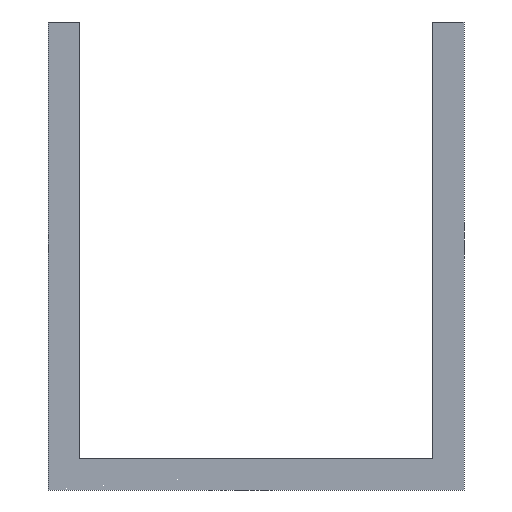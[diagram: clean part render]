
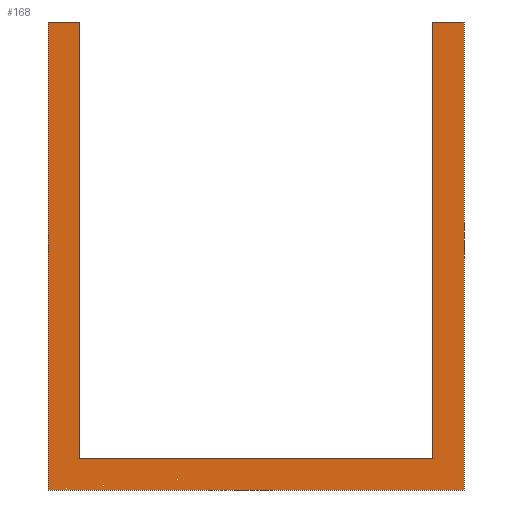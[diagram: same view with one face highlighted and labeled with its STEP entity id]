
A CAD part, front view. The second image highlights one B-rep face of the part: STEP entity #168.
In plain terms, the highlighted planar face has unit normal (0, -1, 0).
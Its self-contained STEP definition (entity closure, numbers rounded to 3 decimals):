
#21 = EDGE_CURVE('',#22,#24,#26,.T.);
#22 = VERTEX_POINT('',#23);
#23 = CARTESIAN_POINT('',(0.,-7.5,0.));
#24 = VERTEX_POINT('',#25);
#25 = CARTESIAN_POINT('',(0.,-7.5,90.));
#26 = SURFACE_CURVE('',#27,(#31,#43),.PCURVE_S1.);
#27 = LINE('',#28,#29);
#28 = CARTESIAN_POINT('',(0.,-7.5,0.));
#29 = VECTOR('',#30,1.);
#30 = DIRECTION('',(0.,0.,1.));
#31 = PCURVE('',#32,#37);
#32 = PLANE('',#33);
#33 = AXIS2_PLACEMENT_3D('',#34,#35,#36);
#34 = CARTESIAN_POINT('',(0.,-7.5,0.));
#35 = DIRECTION('',(1.,0.,0.));
#36 = DIRECTION('',(0.,0.,1.));
#37 = DEFINITIONAL_REPRESENTATION('',(#38),#42);
#38 = LINE('',#39,#40);
#39 = CARTESIAN_POINT('',(0.,0.));
#40 = VECTOR('',#41,1.);
#41 = DIRECTION('',(1.,0.));
#42 = ( GEOMETRIC_REPRESENTATION_CONTEXT(2) 
PARAMETRIC_REPRESENTATION_CONTEXT() REPRESENTATION_CONTEXT('2D SPACE',''
  ) );
#43 = PCURVE('',#44,#49);
#44 = PLANE('',#45);
#45 = AXIS2_PLACEMENT_3D('',#46,#47,#48);
#46 = CARTESIAN_POINT('',(0.,-7.5,0.));
#47 = DIRECTION('',(0.,1.,0.));
#48 = DIRECTION('',(0.,0.,1.));
#49 = DEFINITIONAL_REPRESENTATION('',(#50),#54);
#50 = LINE('',#51,#52);
#51 = CARTESIAN_POINT('',(0.,0.));
#52 = VECTOR('',#53,1.);
#53 = DIRECTION('',(1.,0.));
#54 = ( GEOMETRIC_REPRESENTATION_CONTEXT(2) 
PARAMETRIC_REPRESENTATION_CONTEXT() REPRESENTATION_CONTEXT('2D SPACE',''
  ) );
#72 = PLANE('',#73);
#73 = AXIS2_PLACEMENT_3D('',#74,#75,#76);
#74 = CARTESIAN_POINT('',(0.,-7.5,0.));
#75 = DIRECTION('',(0.,0.,1.));
#76 = DIRECTION('',(1.,0.,0.));
#126 = PLANE('',#127);
#127 = AXIS2_PLACEMENT_3D('',#128,#129,#130);
#128 = CARTESIAN_POINT('',(0.,-7.5,90.));
#129 = DIRECTION('',(0.,0.,1.));
#130 = DIRECTION('',(1.,0.,0.));
#168 = ADVANCED_FACE('',(#169),#44,.F.);
#169 = FACE_BOUND('',#170,.F.);
#170 = EDGE_LOOP('',(#171,#194,#195,#218,#246,#274,#302,#330));
#171 = ORIENTED_EDGE('',*,*,#172,.F.);
#172 = EDGE_CURVE('',#22,#173,#175,.T.);
#173 = VERTEX_POINT('',#174);
#174 = CARTESIAN_POINT('',(80.,-7.5,0.));
#175 = SURFACE_CURVE('',#176,(#180,#187),.PCURVE_S1.);
#176 = LINE('',#177,#178);
#177 = CARTESIAN_POINT('',(0.,-7.5,0.));
#178 = VECTOR('',#179,1.);
#179 = DIRECTION('',(1.,0.,0.));
#180 = PCURVE('',#44,#181);
#181 = DEFINITIONAL_REPRESENTATION('',(#182),#186);
#182 = LINE('',#183,#184);
#183 = CARTESIAN_POINT('',(0.,0.));
#184 = VECTOR('',#185,1.);
#185 = DIRECTION('',(0.,1.));
#186 = ( GEOMETRIC_REPRESENTATION_CONTEXT(2) 
PARAMETRIC_REPRESENTATION_CONTEXT() REPRESENTATION_CONTEXT('2D SPACE',''
  ) );
#187 = PCURVE('',#72,#188);
#188 = DEFINITIONAL_REPRESENTATION('',(#189),#193);
#189 = LINE('',#190,#191);
#190 = CARTESIAN_POINT('',(0.,0.));
#191 = VECTOR('',#192,1.);
#192 = DIRECTION('',(1.,0.));
#193 = ( GEOMETRIC_REPRESENTATION_CONTEXT(2) 
PARAMETRIC_REPRESENTATION_CONTEXT() REPRESENTATION_CONTEXT('2D SPACE',''
  ) );
#194 = ORIENTED_EDGE('',*,*,#21,.T.);
#195 = ORIENTED_EDGE('',*,*,#196,.T.);
#196 = EDGE_CURVE('',#24,#197,#199,.T.);
#197 = VERTEX_POINT('',#198);
#198 = CARTESIAN_POINT('',(6.,-7.5,90.));
#199 = SURFACE_CURVE('',#200,(#204,#211),.PCURVE_S1.);
#200 = LINE('',#201,#202);
#201 = CARTESIAN_POINT('',(0.,-7.5,90.));
#202 = VECTOR('',#203,1.);
#203 = DIRECTION('',(1.,0.,0.));
#204 = PCURVE('',#44,#205);
#205 = DEFINITIONAL_REPRESENTATION('',(#206),#210);
#206 = LINE('',#207,#208);
#207 = CARTESIAN_POINT('',(90.,0.));
#208 = VECTOR('',#209,1.);
#209 = DIRECTION('',(0.,1.));
#210 = ( GEOMETRIC_REPRESENTATION_CONTEXT(2) 
PARAMETRIC_REPRESENTATION_CONTEXT() REPRESENTATION_CONTEXT('2D SPACE',''
  ) );
#211 = PCURVE('',#126,#212);
#212 = DEFINITIONAL_REPRESENTATION('',(#213),#217);
#213 = LINE('',#214,#215);
#214 = CARTESIAN_POINT('',(0.,0.));
#215 = VECTOR('',#216,1.);
#216 = DIRECTION('',(1.,0.));
#217 = ( GEOMETRIC_REPRESENTATION_CONTEXT(2) 
PARAMETRIC_REPRESENTATION_CONTEXT() REPRESENTATION_CONTEXT('2D SPACE',''
  ) );
#218 = ORIENTED_EDGE('',*,*,#219,.F.);
#219 = EDGE_CURVE('',#220,#197,#222,.T.);
#220 = VERTEX_POINT('',#221);
#221 = CARTESIAN_POINT('',(6.,-7.5,6.));
#222 = SURFACE_CURVE('',#223,(#227,#234),.PCURVE_S1.);
#223 = LINE('',#224,#225);
#224 = CARTESIAN_POINT('',(6.,-7.5,0.));
#225 = VECTOR('',#226,1.);
#226 = DIRECTION('',(0.,0.,1.));
#227 = PCURVE('',#44,#228);
#228 = DEFINITIONAL_REPRESENTATION('',(#229),#233);
#229 = LINE('',#230,#231);
#230 = CARTESIAN_POINT('',(0.,6.));
#231 = VECTOR('',#232,1.);
#232 = DIRECTION('',(1.,0.));
#233 = ( GEOMETRIC_REPRESENTATION_CONTEXT(2) 
PARAMETRIC_REPRESENTATION_CONTEXT() REPRESENTATION_CONTEXT('2D SPACE',''
  ) );
#234 = PCURVE('',#235,#240);
#235 = PLANE('',#236);
#236 = AXIS2_PLACEMENT_3D('',#237,#238,#239);
#237 = CARTESIAN_POINT('',(6.,-7.5,0.));
#238 = DIRECTION('',(1.,0.,0.));
#239 = DIRECTION('',(0.,0.,1.));
#240 = DEFINITIONAL_REPRESENTATION('',(#241),#245);
#241 = LINE('',#242,#243);
#242 = CARTESIAN_POINT('',(0.,0.));
#243 = VECTOR('',#244,1.);
#244 = DIRECTION('',(1.,0.));
#245 = ( GEOMETRIC_REPRESENTATION_CONTEXT(2) 
PARAMETRIC_REPRESENTATION_CONTEXT() REPRESENTATION_CONTEXT('2D SPACE',''
  ) );
#246 = ORIENTED_EDGE('',*,*,#247,.T.);
#247 = EDGE_CURVE('',#220,#248,#250,.T.);
#248 = VERTEX_POINT('',#249);
#249 = CARTESIAN_POINT('',(74.,-7.5,6.));
#250 = SURFACE_CURVE('',#251,(#255,#262),.PCURVE_S1.);
#251 = LINE('',#252,#253);
#252 = CARTESIAN_POINT('',(0.,-7.5,6.));
#253 = VECTOR('',#254,1.);
#254 = DIRECTION('',(1.,0.,0.));
#255 = PCURVE('',#44,#256);
#256 = DEFINITIONAL_REPRESENTATION('',(#257),#261);
#257 = LINE('',#258,#259);
#258 = CARTESIAN_POINT('',(6.,0.));
#259 = VECTOR('',#260,1.);
#260 = DIRECTION('',(0.,1.));
#261 = ( GEOMETRIC_REPRESENTATION_CONTEXT(2) 
PARAMETRIC_REPRESENTATION_CONTEXT() REPRESENTATION_CONTEXT('2D SPACE',''
  ) );
#262 = PCURVE('',#263,#268);
#263 = PLANE('',#264);
#264 = AXIS2_PLACEMENT_3D('',#265,#266,#267);
#265 = CARTESIAN_POINT('',(0.,-7.5,6.));
#266 = DIRECTION('',(0.,0.,1.));
#267 = DIRECTION('',(1.,0.,0.));
#268 = DEFINITIONAL_REPRESENTATION('',(#269),#273);
#269 = LINE('',#270,#271);
#270 = CARTESIAN_POINT('',(0.,0.));
#271 = VECTOR('',#272,1.);
#272 = DIRECTION('',(1.,0.));
#273 = ( GEOMETRIC_REPRESENTATION_CONTEXT(2) 
PARAMETRIC_REPRESENTATION_CONTEXT() REPRESENTATION_CONTEXT('2D SPACE',''
  ) );
#274 = ORIENTED_EDGE('',*,*,#275,.T.);
#275 = EDGE_CURVE('',#248,#276,#278,.T.);
#276 = VERTEX_POINT('',#277);
#277 = CARTESIAN_POINT('',(74.,-7.5,90.));
#278 = SURFACE_CURVE('',#279,(#283,#290),.PCURVE_S1.);
#279 = LINE('',#280,#281);
#280 = CARTESIAN_POINT('',(74.,-7.5,0.));
#281 = VECTOR('',#282,1.);
#282 = DIRECTION('',(0.,0.,1.));
#283 = PCURVE('',#44,#284);
#284 = DEFINITIONAL_REPRESENTATION('',(#285),#289);
#285 = LINE('',#286,#287);
#286 = CARTESIAN_POINT('',(0.,74.));
#287 = VECTOR('',#288,1.);
#288 = DIRECTION('',(1.,0.));
#289 = ( GEOMETRIC_REPRESENTATION_CONTEXT(2) 
PARAMETRIC_REPRESENTATION_CONTEXT() REPRESENTATION_CONTEXT('2D SPACE',''
  ) );
#290 = PCURVE('',#291,#296);
#291 = PLANE('',#292);
#292 = AXIS2_PLACEMENT_3D('',#293,#294,#295);
#293 = CARTESIAN_POINT('',(74.,-7.5,0.));
#294 = DIRECTION('',(1.,0.,0.));
#295 = DIRECTION('',(0.,0.,1.));
#296 = DEFINITIONAL_REPRESENTATION('',(#297),#301);
#297 = LINE('',#298,#299);
#298 = CARTESIAN_POINT('',(0.,0.));
#299 = VECTOR('',#300,1.);
#300 = DIRECTION('',(1.,0.));
#301 = ( GEOMETRIC_REPRESENTATION_CONTEXT(2) 
PARAMETRIC_REPRESENTATION_CONTEXT() REPRESENTATION_CONTEXT('2D SPACE',''
  ) );
#302 = ORIENTED_EDGE('',*,*,#303,.T.);
#303 = EDGE_CURVE('',#276,#304,#306,.T.);
#304 = VERTEX_POINT('',#305);
#305 = CARTESIAN_POINT('',(80.,-7.5,90.));
#306 = SURFACE_CURVE('',#307,(#311,#318),.PCURVE_S1.);
#307 = LINE('',#308,#309);
#308 = CARTESIAN_POINT('',(74.,-7.5,90.));
#309 = VECTOR('',#310,1.);
#310 = DIRECTION('',(1.,0.,0.));
#311 = PCURVE('',#44,#312);
#312 = DEFINITIONAL_REPRESENTATION('',(#313),#317);
#313 = LINE('',#314,#315);
#314 = CARTESIAN_POINT('',(90.,74.));
#315 = VECTOR('',#316,1.);
#316 = DIRECTION('',(0.,1.));
#317 = ( GEOMETRIC_REPRESENTATION_CONTEXT(2) 
PARAMETRIC_REPRESENTATION_CONTEXT() REPRESENTATION_CONTEXT('2D SPACE',''
  ) );
#318 = PCURVE('',#319,#324);
#319 = PLANE('',#320);
#320 = AXIS2_PLACEMENT_3D('',#321,#322,#323);
#321 = CARTESIAN_POINT('',(74.,-7.5,90.));
#322 = DIRECTION('',(0.,0.,1.));
#323 = DIRECTION('',(1.,0.,0.));
#324 = DEFINITIONAL_REPRESENTATION('',(#325),#329);
#325 = LINE('',#326,#327);
#326 = CARTESIAN_POINT('',(0.,0.));
#327 = VECTOR('',#328,1.);
#328 = DIRECTION('',(1.,0.));
#329 = ( GEOMETRIC_REPRESENTATION_CONTEXT(2) 
PARAMETRIC_REPRESENTATION_CONTEXT() REPRESENTATION_CONTEXT('2D SPACE',''
  ) );
#330 = ORIENTED_EDGE('',*,*,#331,.F.);
#331 = EDGE_CURVE('',#173,#304,#332,.T.);
#332 = SURFACE_CURVE('',#333,(#337,#344),.PCURVE_S1.);
#333 = LINE('',#334,#335);
#334 = CARTESIAN_POINT('',(80.,-7.5,0.));
#335 = VECTOR('',#336,1.);
#336 = DIRECTION('',(0.,0.,1.));
#337 = PCURVE('',#44,#338);
#338 = DEFINITIONAL_REPRESENTATION('',(#339),#343);
#339 = LINE('',#340,#341);
#340 = CARTESIAN_POINT('',(0.,80.));
#341 = VECTOR('',#342,1.);
#342 = DIRECTION('',(1.,0.));
#343 = ( GEOMETRIC_REPRESENTATION_CONTEXT(2) 
PARAMETRIC_REPRESENTATION_CONTEXT() REPRESENTATION_CONTEXT('2D SPACE',''
  ) );
#344 = PCURVE('',#345,#350);
#345 = PLANE('',#346);
#346 = AXIS2_PLACEMENT_3D('',#347,#348,#349);
#347 = CARTESIAN_POINT('',(80.,-7.5,0.));
#348 = DIRECTION('',(1.,0.,0.));
#349 = DIRECTION('',(0.,0.,1.));
#350 = DEFINITIONAL_REPRESENTATION('',(#351),#355);
#351 = LINE('',#352,#353);
#352 = CARTESIAN_POINT('',(0.,0.));
#353 = VECTOR('',#354,1.);
#354 = DIRECTION('',(1.,0.));
#355 = ( GEOMETRIC_REPRESENTATION_CONTEXT(2) 
PARAMETRIC_REPRESENTATION_CONTEXT() REPRESENTATION_CONTEXT('2D SPACE',''
  ) );
